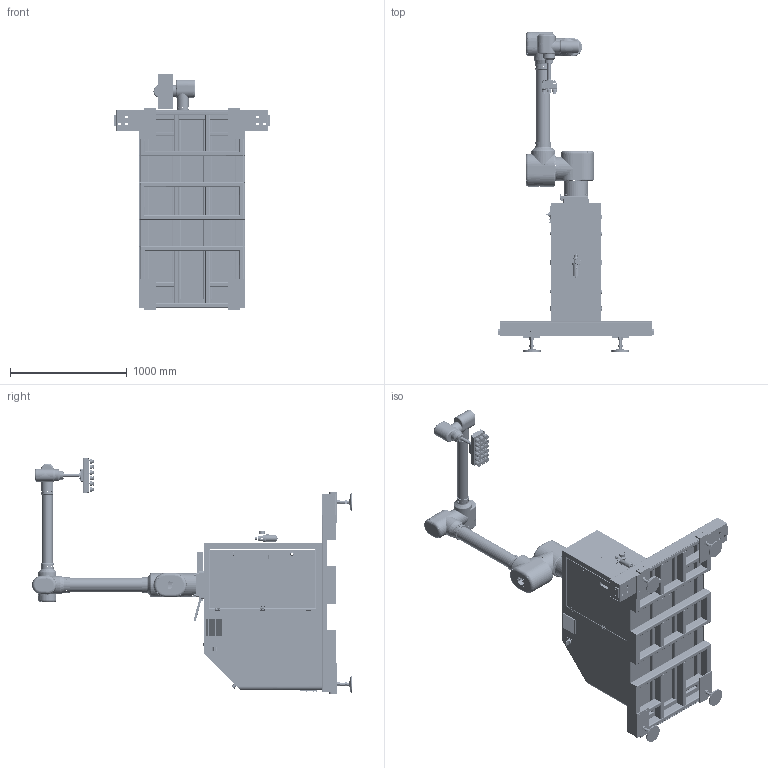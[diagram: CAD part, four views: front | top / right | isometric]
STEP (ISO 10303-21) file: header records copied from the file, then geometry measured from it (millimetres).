
FILE_DESCRIPTION (( 'STEP AP214' ), '1' );
FILE_NAME ('WP40L.STEP', '2025-03-17T07:45:16', ( '' ), ( '' ), 'SwSTEP 2.0', 'SolidWorks 2018', '' );
FILE_SCHEMA (( 'AUTOMOTIVE_DESIGN' ));
Length unit declared in the file: millimetre
Products named in the file (2): WP40L
Bounding box: 1330 x 2742.43 x 2025 mm (x, y, z)
Surface area: 20567877.4 mm2 (no closed solid volume)
Topology: 0 solids, 2988 shells, 7249 faces, 32950 edges, 28224 vertices
Faces by surface type: plane 4068, cylinder 2120, cone 508, bspline 295, torus 221, sphere 37
Entity records: 459597 total; most frequent: CARTESIAN_POINT 129304, DIRECTION 48729, ORIENTED_EDGE 39844, EDGE_CURVE 32865, VERTEX_POINT 28218, VECTOR 20073, LINE 20073, AXIS2_PLACEMENT_3D 14328
